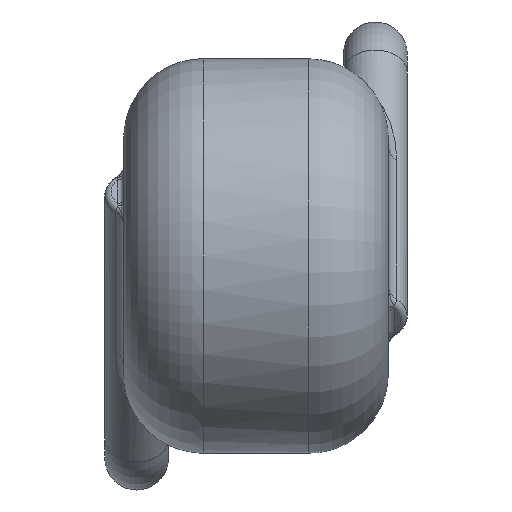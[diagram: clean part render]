
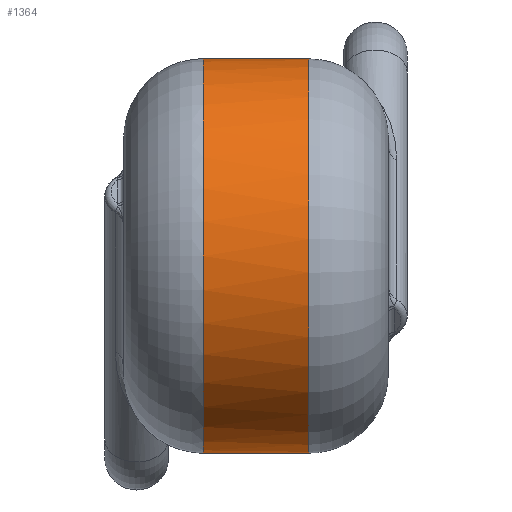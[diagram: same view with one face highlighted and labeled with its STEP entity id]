
A CAD part, left-side view. The second image highlights one B-rep face of the part: STEP entity #1364.
In plain terms, the highlighted cylindrical face has radius 6.2 mm (diameter 12.4 mm), a full revolution.
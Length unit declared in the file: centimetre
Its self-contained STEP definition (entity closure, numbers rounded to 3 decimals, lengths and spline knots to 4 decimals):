
#948=CARTESIAN_POINT('',(0.62,0.5,0.));
#949=VERTEX_POINT('',#948);
#950=CARTESIAN_POINT('',(0.0,0.5,0.0));
#951=DIRECTION('',(0.0,1.0,0.0));
#952=DIRECTION('',(-1.0,0.0,0.0));
#953=AXIS2_PLACEMENT_3D('',#950,#951,#952);
#954=CIRCLE('',#953,0.62);
#955=EDGE_CURVE('',#949,#949,#954,.T.);
#1255=CARTESIAN_POINT('',(0.62,0.169,0.));
#1256=VERTEX_POINT('',#1255);
#1257=CARTESIAN_POINT('',(0.0,0.169,0.0));
#1258=DIRECTION('',(0.0,-1.0,0.0));
#1259=DIRECTION('',(-1.0,0.0,0.0));
#1260=AXIS2_PLACEMENT_3D('',#1257,#1258,#1259);
#1261=CIRCLE('',#1260,0.62);
#1262=EDGE_CURVE('',#1256,#1256,#1261,.T.);
#1353=CARTESIAN_POINT('',(0.0,0.3345,0.0));
#1354=DIRECTION('',(0.0,1.0,0.0));
#1355=DIRECTION('',(-1.0,0.0,0.0));
#1356=AXIS2_PLACEMENT_3D('',#1353,#1354,#1355);
#1357=CYLINDRICAL_SURFACE('',#1356,0.62);
#1358=ORIENTED_EDGE('',*,*,#955,.F.);
#1359=EDGE_LOOP('',(#1358));
#1360=FACE_OUTER_BOUND('',#1359,.T.);
#1361=ORIENTED_EDGE('',*,*,#1262,.F.);
#1362=EDGE_LOOP('',(#1361));
#1363=FACE_BOUND('',#1362,.T.);
#1364=ADVANCED_FACE('',(#1360,#1363),#1357,.T.);
